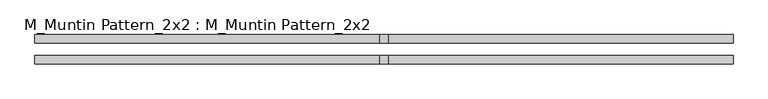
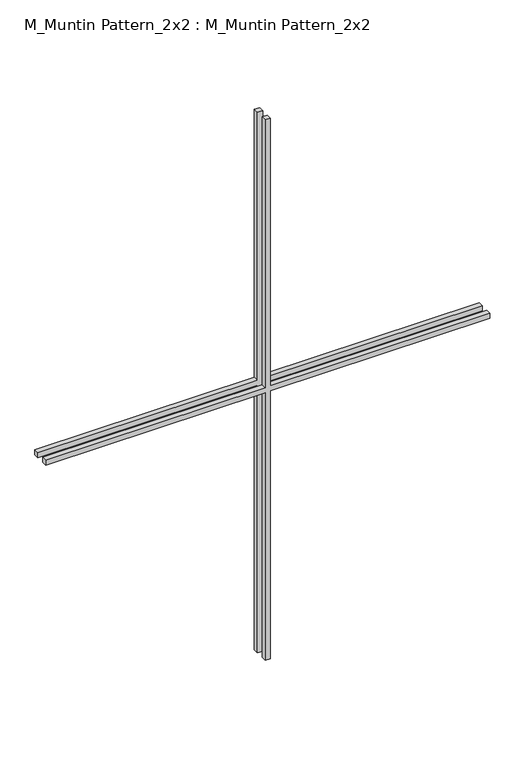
"""IFC4 building model written with IfcOpenShell, lengths in millimetres: proxy geometry, M_Muntin Pattern_2x2 : M_Muntin Pattern_2x2."""

from ifc_helpers import new_model, si_unit, frame, origin, place, context, project, spatial, polyline, outline, extrude, source, transform, mapped, element, save


def m_muntin_pattern_2x2_m_muntin_pattern_2x2_53385f98(model_context):
    return source(origin(), model_context, "Body", "SweptSolid", [
        extrude(outline(polyline([(691.0, -6.35), (691.0, -532.25), (678.3, -532.25), (678.3, -6.35), (0.0, -6.35), (0.0, 6.35), (678.3, 6.35), (678.3, 532.25), (691.0, 532.25), (691.0, 6.35), (1369.3, 6.35), (1369.3, -6.35), (691.0, -6.35)])), frame((0.0, 9.525, 0.0), z_axis=(0.0, 1.0, 0.0), x_axis=(0.0, 0.0, 1.0)), (0.0, 0.0, 1.0), 12.7),
        extrude(outline(polyline([(691.0, -6.35), (691.0, -532.25), (678.3, -532.25), (678.3, -6.35), (0.0, -6.35), (0.0, 6.35), (678.3, 6.35), (678.3, 532.25), (691.0, 532.25), (691.0, 6.35), (1369.3, 6.35), (1369.3, -6.35), (691.0, -6.35)])), frame((0.0, -22.225, 0.0), z_axis=(0.0, 1.0, 0.0), x_axis=(0.0, 0.0, 1.0)), (0.0, 0.0, 1.0), 12.7),
    ])


if __name__ == "__main__":
    model = new_model("IFC4")
    model_context = context("Model", 3, world=origin())
    ifc_project = project(units=[si_unit("LENGTHUNIT", "METRE", prefix="MILLI")], contexts=[model_context])
    site = spatial("IfcSite", under=ifc_project)
    building = spatial("IfcBuilding", under=site)
    placement = place(None, origin())
    m_muntin_pattern_2x2_m_muntin_pattern_2x2_shape = m_muntin_pattern_2x2_m_muntin_pattern_2x2_53385f98(model_context)
    element("IfcBuildingElementProxy", 1, Name="M_Muntin Pattern_2x2 : M_Muntin Pattern_2x2", ObjectType="M_Muntin Pattern_2x2 : M_Muntin Pattern_2x2", at=placement, inside=building, context=model_context, shape_type="MappedRepresentation", body=[
        mapped(m_muntin_pattern_2x2_m_muntin_pattern_2x2_shape, transform((0.0, 0.0, 0.0), x_axis=(1.0, 0.0, 0.0), y_axis=(0.0, 1.0, 0.0), z_axis=(0.0, 0.0, 1.0))),
    ])
    save(model, "model.ifc")
